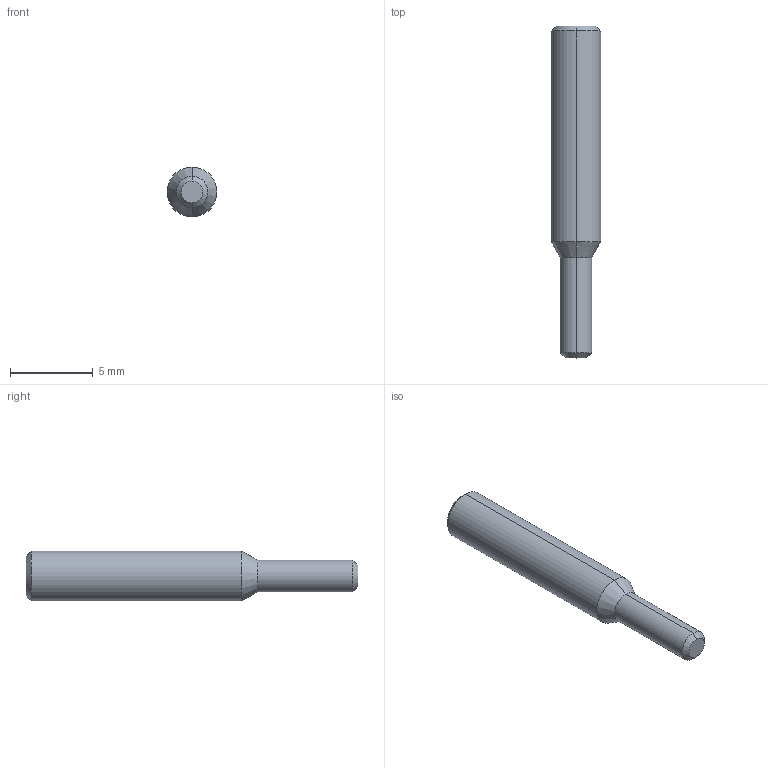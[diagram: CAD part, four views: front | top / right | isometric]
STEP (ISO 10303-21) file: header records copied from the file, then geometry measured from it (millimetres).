
FILE_DESCRIPTION (( 'STEP AP214' ), '1' );
FILE_NAME ('傻裝.STEP', '2026-07-10T09:35:09', ( '' ), ( '' ), 'SwSTEP 2.0', 'SolidWorks 2024', '' );
FILE_SCHEMA (( 'AUTOMOTIVE_DESIGN' ));
Length unit declared in the file: millimetre
Products named in the file (1): 短杆
Bounding box: 3 x 20 x 3 mm (x, y, z)
Volume: 106.3 mm3; surface area: 190.4 mm2
Topology: 1 solids, 1 shells, 25 faces, 46 edges, 24 vertices
Faces by surface type: cone 12, plane 9, cylinder 4
Entity records: 647 total; most frequent: CARTESIAN_POINT 134, DIRECTION 110, ORIENTED_EDGE 92, EDGE_CURVE 46, AXIS2_PLACEMENT_3D 44, EDGE_LOOP 26, ADVANCED_FACE 25, FACE_OUTER_BOUND 25
